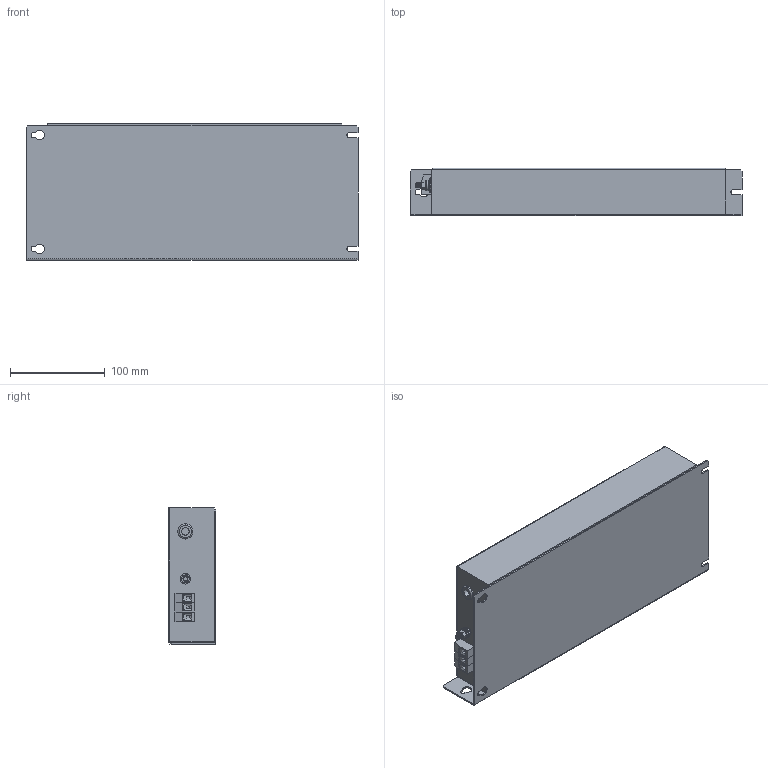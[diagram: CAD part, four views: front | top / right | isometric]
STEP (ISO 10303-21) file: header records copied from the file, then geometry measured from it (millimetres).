
FILE_DESCRIPTION (( 'STEP AP203' ), '1' );
FILE_NAME ('NF-U-LE-8400-34018.STEP', '2024-04-16T13:20:30', ( '' ), ( '' ), 'SwSTEP 2.0', 'SolidWorks 2017', '' );
FILE_SCHEMA (( 'CONFIG_CONTROL_DESIGN' ));
Length unit declared in the file: millimetre
Products named in the file (9): 84LZ4; VDFK4x3; M5x13 Earth post; hex nut style 1_am_B18.2.4.1M - Hex nut, Style 1,  M5 x 0.8 --D-N; Grommet_15080; VDFK-4; flat washer narrow_am_B18.22M - Plain washer, 5 mm, narrow; NF-U-LE-8400-34018; hex screw_am_B18.6.7M - M5 x 0.8 x 13 Indented HHMS --13S
Assembly tree (11 placements, depth 3):
  NF-U-LE-8400-34018
    84LZ4
    Grommet_15080
    M5x13 Earth post
      hex screw_am_B18.6.7M - M5 x 0.8 x 13 Indented HHMS --13S
      flat washer narrow_am_B18.22M - Plain washer, 5 mm, narrow  x2
      hex nut style 1_am_B18.2.4.1M - Hex nut, Style 1,  M5 x 0.8 --D-N
    VDFK4x3
      VDFK-4  x3
Bounding box: 350 x 50 x 144 mm (x, y, z)
Volume: 2245785.4 mm3; surface area: 157003 mm2
Topology: 9 solids, 9 shells, 381 faces, 928 edges, 580 vertices
Faces by surface type: plane 164, cylinder 107, cone 104, torus 4, sphere 2
Entity records: 9983 total; most frequent: CARTESIAN_POINT 1663, DIRECTION 1658, ORIENTED_EDGE 1456, EDGE_CURVE 728, AXIS2_PLACEMENT_3D 651, VERTEX_POINT 456, LINE 356, VECTOR 356
